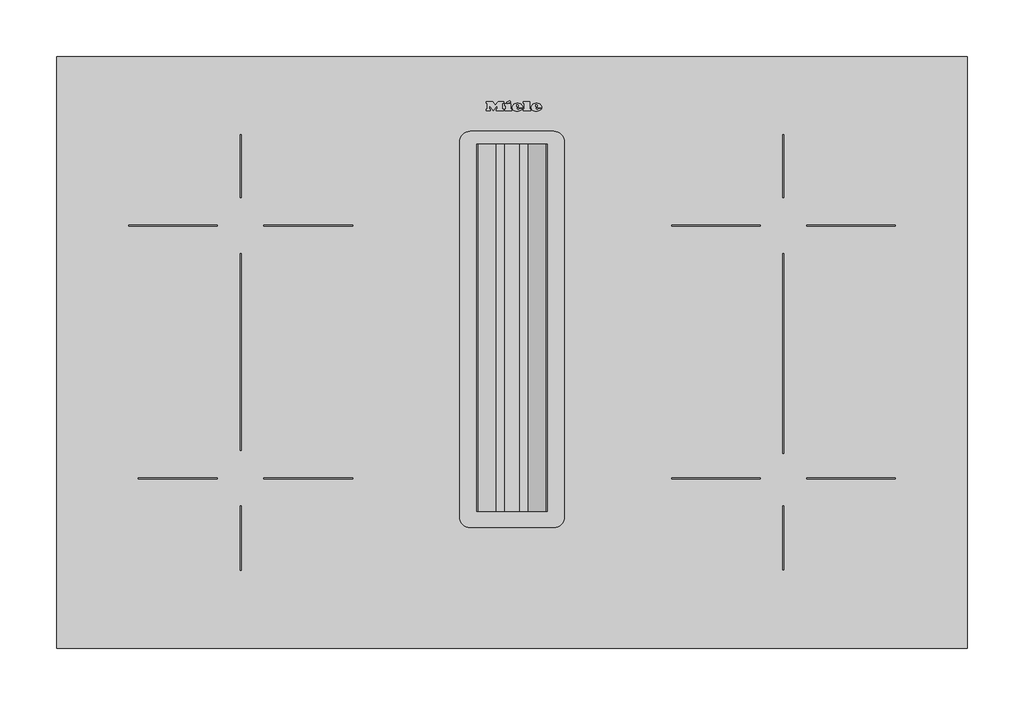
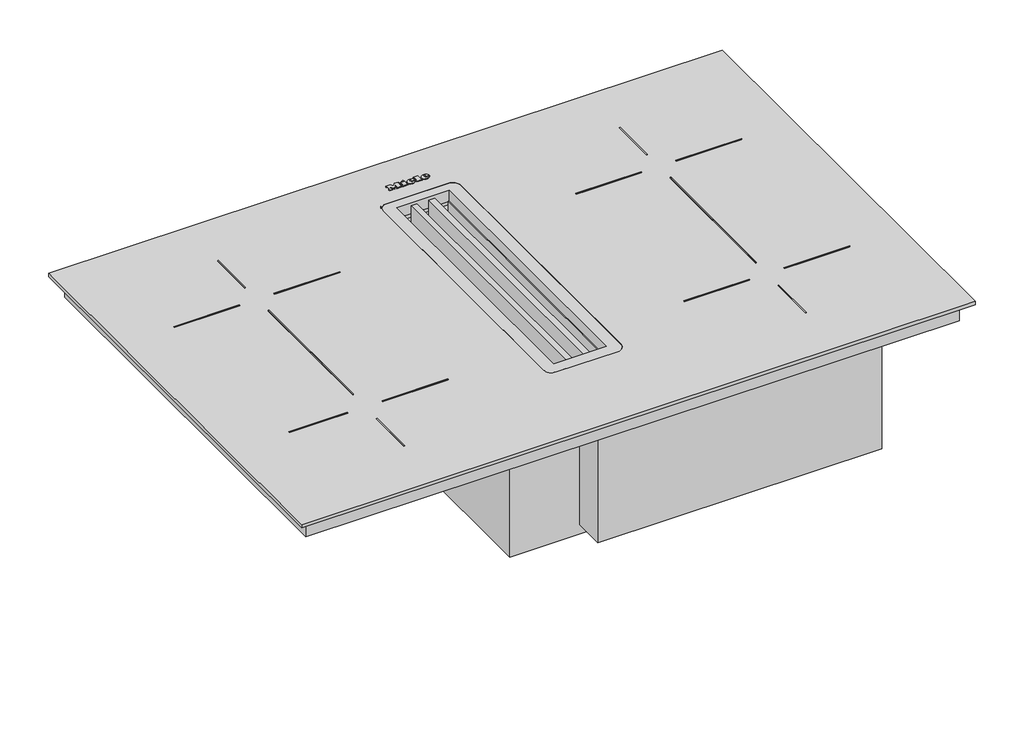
# Not in any storey: 1 proxy.
"""IFC4 building model written with IfcOpenShell, lengths in millimetres."""

import ifcopenshell
import ifcopenshell.guid

model = None  # the IFC model being written
_history = None  # IfcOwnerHistory: only IFC2X3 demands one
_inside = {}  # id of a spatial element -> (the spatial element, [elements in it])
_under = {}  # id of a project, library or spatial element -> (it, [spatial elements below it])
_declared = {}  # id of a project -> (the project, [libraries it declares])
_typed = {}  # id of a type object -> (the type object, [elements of that type])
_made_of = {}  # id of a material, layer set ... -> (it, [elements and type objects made of it])


def new_model(schema):
    """Start an empty IFC model of exactly this schema.

    Asked for "IFC4X3", IfcOpenShell would pick the latest addendum, in which some entities
    have other attributes; the version numbers below select the first issue.
    IFC2X3 requires an IfcOwnerHistory on every rooted entity: one is made here for all.
    """
    global model, _history
    if schema == "IFC4X3":
        model = ifcopenshell.file(schema_version=(4, 3, 0, 0))
    else:
        model = ifcopenshell.file(schema=schema)
    _inside.clear()
    _under.clear()
    _declared.clear()
    _typed.clear()
    _made_of.clear()
    _history = None
    if model.schema == "IFC2X3":
        org = make("IfcOrganization", Name="unknown")
        user = make(
            "IfcPersonAndOrganization",
            ThePerson=make("IfcPerson", FamilyName="unknown"),
            TheOrganization=org,
        )
        app = make(
            "IfcApplication",
            ApplicationDeveloper=org,
            Version="unknown",
            ApplicationFullName="unknown",
            ApplicationIdentifier="unknown",
        )
        _history = make(
            "IfcOwnerHistory",
            OwningUser=user,
            OwningApplication=app,
            ChangeAction="ADDED",
            CreationDate=0,
        )
    return model


def make(cls, **values):
    """One entity of the class cls with the attributes given. An attribute that is None is left unset."""
    return model.create_entity(
        cls, **{name: value for name, value in values.items() if value is not None}
    )


def rooted(cls, **values):
    """An entity with a GlobalId (a new one), such as an element, a storey or a relation."""
    return make(cls, GlobalId=ifcopenshell.guid.new(), OwnerHistory=_history, **values)


def si_unit(unit_type, name, prefix=None):
    """IfcSIUnit, for example si_unit("LENGTHUNIT", "METRE", prefix="MILLI")."""
    return make("IfcSIUnit", UnitType=unit_type, Prefix=prefix, Name=name)


def assignment(units):
    """IfcUnitAssignment: the units of a project."""
    return None if units is None else make("IfcUnitAssignment", Units=units)


def point(xyz):
    """IfcCartesianPoint."""
    return None if xyz is None else make("IfcCartesianPoint", Coordinates=xyz)


def direction(xyz):
    """IfcDirection."""
    return None if xyz is None else make("IfcDirection", DirectionRatios=xyz)


def frame(location, z_axis=None, x_axis=None):
    """IfcAxis2Placement3D, a coordinate frame: its origin and axes. An axis left out is left unset."""
    return make(
        "IfcAxis2Placement3D",
        Location=point(location),
        Axis=direction(z_axis),
        RefDirection=direction(x_axis),
    )


def frame_2d(location, x_axis=None):
    """IfcAxis2Placement2D, a coordinate frame in the plane: its origin and x axis."""
    return make(
        "IfcAxis2Placement2D", Location=point(location), RefDirection=direction(x_axis)
    )


def origin():
    """The frame at (0, 0, 0) with its axes left unset."""
    return frame((0.0, 0.0, 0.0))


def origin_with_axes():
    """The frame at (0, 0, 0) with the z axis (0, 0, 1) and the x axis (1, 0, 0) written out."""
    return frame((0.0, 0.0, 0.0), z_axis=(0.0, 0.0, 1.0), x_axis=(1.0, 0.0, 0.0))


def place(relative_to, where):
    """IfcLocalPlacement: puts the frame where relative to a parent placement (None: the world)."""
    return make(
        "IfcLocalPlacement", PlacementRelTo=relative_to, RelativePlacement=where
    )


def context(
    kind, dimensions, precision=None, world=None, true_north=None, identifier=None
):
    """IfcGeometricRepresentationContext, for example the 3D "Model" context."""
    return make(
        "IfcGeometricRepresentationContext",
        ContextIdentifier=identifier,
        ContextType=kind,
        CoordinateSpaceDimension=dimensions,
        Precision=precision,
        WorldCoordinateSystem=world,
        TrueNorth=true_north,
    )


def project(units=None, contexts=None):
    """IfcProject with its units and contexts."""
    return rooted(
        "IfcProject",
        Name="project",
        RepresentationContexts=contexts,
        UnitsInContext=assignment(units),
    )


def spatial(cls, under=None, at=None, **own):
    """A site, building, storey or space (cls), placed at a placement, below another one or the project."""
    s = rooted(cls, ObjectPlacement=at, **own)
    if under is not None:
        _under.setdefault(under.id(), (under, []))[1].append(s)
    return s


def polyline(points):
    """IfcPolyline through the points."""
    return make("IfcPolyline", Points=[point(p) for p in points])


def circle_curve(where, radius):
    """IfcCircle in the frame where."""
    return make("IfcCircle", Position=where, Radius=radius)


def ellipse_curve(where, semi_axis1, semi_axis2):
    """IfcEllipse in the frame where."""
    return make(
        "IfcEllipse", Position=where, SemiAxis1=semi_axis1, SemiAxis2=semi_axis2
    )


def trimmed(basis, trim1, trim2, sense, master):
    """IfcTrimmedCurve: the piece of a basis curve between two trims."""
    return make(
        "IfcTrimmedCurve",
        BasisCurve=basis,
        Trim1=trim1,
        Trim2=trim2,
        SenseAgreement=sense,
        MasterRepresentation=master,
    )


def segment(curve, same_sense, transition):
    """IfcCompositeCurveSegment."""
    return make(
        "IfcCompositeCurveSegment",
        Transition=transition,
        SameSense=same_sense,
        ParentCurve=curve,
    )


def composite_curve(segments, self_intersect=None):
    """IfcCompositeCurve: segments joined end to end."""
    return make("IfcCompositeCurve", Segments=segments, SelfIntersect=self_intersect)


def outline(outer, holes=None, kind="AREA"):
    """IfcArbitraryClosedProfileDef: a profile drawn as a closed curve; with holes, ...WithVoids."""
    if holes is None:
        return make("IfcArbitraryClosedProfileDef", ProfileType=kind, OuterCurve=outer)
    return make(
        "IfcArbitraryProfileDefWithVoids",
        ProfileType=kind,
        OuterCurve=outer,
        InnerCurves=holes,
    )


def extrude(swept, where, along, depth):
    """IfcExtrudedAreaSolid: the profile swept, set in the frame where, extruded along a direction by depth."""
    return make(
        "IfcExtrudedAreaSolid",
        SweptArea=swept,
        Position=where,
        ExtrudedDirection=direction(along),
        Depth=depth,
    )


def faces_of(points, faces, orient=None, outer=None):
    """IfcFace entities. A face is a list of loops; a loop is a list of indices into points, from 0.

    orient and outer hold one flag for each loop. By default every Orientation is true, the
    first loop of a face is its IfcFaceOuterBound and the others are IfcFaceBound.
    """
    made = []
    for i, loops in enumerate(faces):
        bounds = []
        for j, loop in enumerate(loops):
            is_outer = j == 0 if outer is None else outer[i][j]
            bounds.append(
                make(
                    "IfcFaceOuterBound" if is_outer else "IfcFaceBound",
                    Bound=make("IfcPolyLoop", Polygon=[points[k] for k in loop]),
                    Orientation=True if orient is None else orient[i][j],
                )
            )
        made.append(make("IfcFace", Bounds=bounds))
    return made


def faceted_brep(points, faces, orient=None, outer=None, voids=None):
    """IfcFacetedBrep: a solid bounded by flat faces; with voids (closed shells), ...WithVoids."""
    shared = [point(p) for p in points]
    hull = make("IfcClosedShell", CfsFaces=faces_of(shared, faces, orient, outer))
    if voids is None:
        return make("IfcFacetedBrep", Outer=hull)
    return make(
        "IfcFacetedBrepWithVoids",
        Outer=hull,
        Voids=[
            make(cls, CfsFaces=faces_of(shared, fs, o, b)) for cls, fs, o, b in voids
        ],
    )


def shape(context_of_items, identifier, shape_type, items):
    """IfcShapeRepresentation: the items that make up one representation, for example the "Body"."""
    return make(
        "IfcShapeRepresentation",
        ContextOfItems=context_of_items,
        RepresentationIdentifier=identifier,
        RepresentationType=shape_type,
        Items=items,
    )


def source(mapping_origin, context_of_items, identifier, shape_type, items):
    """IfcRepresentationMap: a shape defined once, which mapped items show again and again."""
    return make(
        "IfcRepresentationMap",
        MappingOrigin=mapping_origin,
        MappedRepresentation=shape(context_of_items, identifier, shape_type, items),
    )


def transform(
    local_origin,
    x_axis=None,
    y_axis=None,
    z_axis=None,
    scale=None,
    scale2=None,
    scale3=None,
    uniform=True,
):
    """IfcCartesianTransformationOperator3D, or its non-uniform kind. x_axis, y_axis, z_axis: its Axis1, 2, 3."""
    if uniform:
        return make(
            "IfcCartesianTransformationOperator3D",
            Axis1=direction(x_axis),
            Axis2=direction(y_axis),
            LocalOrigin=point(local_origin),
            Scale=scale,
            Axis3=direction(z_axis),
        )
    return make(
        "IfcCartesianTransformationOperator3DnonUniform",
        Axis1=direction(x_axis),
        Axis2=direction(y_axis),
        LocalOrigin=point(local_origin),
        Scale=scale,
        Axis3=direction(z_axis),
        Scale2=scale2,
        Scale3=scale3,
    )


def mapped(mapping_source, mapping_target):
    """IfcMappedItem: shows the shape of a source again, moved by a transform."""
    return make(
        "IfcMappedItem", MappingSource=mapping_source, MappingTarget=mapping_target
    )


def made_of(thing, what):
    """Note that an element or type object is made of a material, layer set ...; save() writes the relation."""
    if what is not None:
        _made_of.setdefault(what.id(), (what, []))[1].append(thing)
    return thing


def element(
    cls,
    number,
    at=None,
    inside=None,
    cuts=None,
    type_object=None,
    material=None,
    context=None,
    identifier="Body",
    shape_type=None,
    held_by="IfcProductDefinitionShape",
    body=None,
    shapes=None,
    **own,
):
    """One element of the class cls, such as IfcWall. Its Tag is "e" and its number.

    at: its placement. inside: the storey or other place that contains it. cuts: it is an
    opening in that element (IfcRelVoidsElement). A single representation is given by context,
    identifier, shape_type and body (its items); several are given by shapes. held_by: the class
    of the entity that holds the representations. save() writes the other relations.
    """
    e = rooted(cls, Tag="e%d" % number, ObjectPlacement=at, **own)
    if body is not None:
        shapes = [shape(context, identifier, shape_type, body)]
    if shapes is not None:
        e.Representation = make(held_by, Representations=shapes)
    if inside is not None:
        _inside.setdefault(inside.id(), (inside, []))[1].append(e)
    if cuts is not None:
        rooted(
            "IfcRelVoidsElement", RelatingBuildingElement=cuts, RelatedOpeningElement=e
        )
    if type_object is not None:
        _typed.setdefault(type_object.id(), (type_object, []))[1].append(e)
    return made_of(e, material)


def aggregate(whole, parts):
    """IfcRelAggregates: a whole, such as a stair, and the parts it consists of."""
    return rooted("IfcRelAggregates", RelatingObject=whole, RelatedObjects=parts)


def save(model, path):
    """Write the relations noted so far, then the file.

    IfcRelAggregates (storeys below a building ...), IfcRelContainedInSpatialStructure (elements
    in a storey), IfcRelDefinesByType, IfcRelAssociatesMaterial and IfcRelDeclares: one each for
    every whole, place, type object, material and project.
    """
    for whole, parts in _under.values():
        aggregate(whole, parts)
    for where, things in _inside.values():
        rooted(
            "IfcRelContainedInSpatialStructure",
            RelatedElements=things,
            RelatingStructure=where,
        )
    for kind, things in _typed.values():
        rooted("IfcRelDefinesByType", RelatedObjects=things, RelatingType=kind)
    for what, things in _made_of.values():
        rooted("IfcRelAssociatesMaterial", RelatedObjects=things, RelatingMaterial=what)
    for by, libraries in _declared.values():
        rooted("IfcRelDeclares", RelatingContext=by, RelatedDefinitions=libraries)
    model.write(path)


def plane_surface(at):
    """IfcPlane: the flat surface through the origin of the frame at, square to its z axis."""
    return make("IfcPlane", Position=at)


def cylinder_surface(at, radius):
    """IfcCylindricalSurface: all points at the distance radius from the z axis of the frame at."""
    return make("IfcCylindricalSurface", Position=at, Radius=radius)


def revolved_surface(curve, axis_point, axis_direction):
    """IfcSurfaceOfRevolution: the curve turned about the line through axis_point along axis_direction."""
    return make(
        "IfcSurfaceOfRevolution",
        SweptCurve=make("IfcArbitraryOpenProfileDef", ProfileType="CURVE", Curve=curve),
        AxisPosition=make("IfcAxis1Placement", Location=point(axis_point), Axis=direction(axis_direction)),
    )


def extruded_surface(curve, direction_of_extrusion, depth):
    """IfcSurfaceOfLinearExtrusion: the curve pushed along a direction by depth."""
    return make(
        "IfcSurfaceOfLinearExtrusion",
        SweptCurve=make("IfcArbitraryOpenProfileDef", ProfileType="CURVE", Curve=curve),
        ExtrudedDirection=direction(direction_of_extrusion),
        Depth=depth,
    )


def advanced_brep(points, edges, surfaces, faces):
    """IfcAdvancedBrep: a solid bounded by faces that lie on surfaces and meet in shared edges.

    An edge is (start, end): straight between two places in points (the first is 0);
    or (start, end, curve); or (start, end, curve, False) where it runs against its curve.
    A face is (place in surfaces, loops), or (place, loops, False) where it looks against
    its surface's normal. A loop lists edges by number (the first is 1), with a minus sign
    where the edge is run from its end to its start. The first loop is the outer one.
    """
    corners = [point(p) for p in points]
    vertices = [make("IfcVertexPoint", VertexGeometry=c) for c in corners]
    made = []
    for start, end, *more in edges:
        made.append(
            make(
                "IfcEdgeCurve",
                EdgeStart=vertices[start],
                EdgeEnd=vertices[end],
                EdgeGeometry=more[0] if more else make("IfcPolyline", Points=[corners[start], corners[end]]),
                SameSense=more[1] if len(more) > 1 else True,
            )
        )
    hull = []
    for where, loops, *sense in faces:
        bounds = []
        for j, loop in enumerate(loops):
            ring = [make("IfcOrientedEdge", EdgeElement=made[abs(k) - 1], Orientation=k > 0) for k in loop]
            bounds.append(
                make(
                    "IfcFaceOuterBound" if j == 0 else "IfcFaceBound",
                    Bound=make("IfcEdgeLoop", EdgeList=ring),
                    Orientation=True,
                )
            )
        hull.append(make("IfcAdvancedFace", Bounds=bounds, FaceSurface=surfaces[where], SameSense=sense[0] if sense else True))
    return make("IfcAdvancedBrep", Outer=make("IfcClosedShell", CfsFaces=hull))


def specialty_equipment_909bfc48(model_context):
    return source(origin(), model_context, "Body", "SolidModel", [
        advanced_brep(
        [(20.8243124, 474.5406203, 5.0), (20.8243124, 475.3486203, 5.0), (26.1763124, 475.3486203, 5.0), (16.8643124, 475.3486203, 5.0), (19.0643124, 472.6446203, 5.0), (26.0403124, 474.5406203, 5.0), (23.6243124, 474.5406203, 5.0), (21.7203124, 473.6446203, 5.0), (20.8243124, 476.3726203, 5.0), (20.8243124, 477.2446203, 5.0), (22.1923124, 477.2446203, 5.0), (22.1923124, 476.3726203, 5.0), (20.8243124, 474.5406203, 4.0), (21.7203124, 473.6446203, 4.0), (23.6243124, 474.5406203, 4.0), (26.0403124, 474.5406203, 4.0), (19.0643124, 472.6446203, 4.0), (16.8643124, 475.3486203, 4.0), (26.1763124, 475.3486203, 4.0), (20.8243124, 475.3486203, 4.0), (20.8243124, 476.3726203, 4.0), (22.1923124, 476.3726203, 4.0), (22.1923124, 477.2446203, 4.0), (20.8243124, 477.2446203, 4.0)],
        [
            (0, 1),
            (1, 2),
            (2, 3, ellipse_curve(frame((21.5203124, 475.3486203, 5.0), z_axis=(0.0, 0.0, 1.0), x_axis=(-1.0, 0.0, 0.0)), 4.656, 3.848)),
            (3, 4, circle_curve(frame((19.960356, 475.6206203, 5.0), z_axis=(0.0, 0.0, 1.0), x_axis=(0.0, -1.0, 0.0)), 3.1079688)),
            (4, 5, circle_curve(frame((21.4271059, 477.7326203, 5.0), z_axis=(0.0, 0.0, 1.0), x_axis=(0.0, -1.0, 0.0)), 5.6098607)),
            (5, 6),
            (6, 7, circle_curve(frame((22.1113712, 475.2846203, 5.0), z_axis=(0.0, 0.0, -1.0), x_axis=(0.0, -1.0, 0.0)), 1.6859795)),
            (7, 0, circle_curve(frame((21.7203124, 474.5406203, 5.0), z_axis=(0.0, 0.0, -1.0), x_axis=(0.0, -1.0, 0.0)), 0.896)),
            (8, 9),
            (9, 10, circle_curve(frame((21.5083124, 477.2446203, 5.0), z_axis=(0.0, 0.0, -1.0), x_axis=(0.0, -1.0, 0.0)), 0.684)),
            (10, 11),
            (11, 8),
            (12, 13, circle_curve(frame((21.7203124, 474.5406203, 4.0), z_axis=(0.0, 0.0, 1.0), x_axis=(0.0, -1.0, 0.0)), 0.896)),
            (13, 14, circle_curve(frame((22.1113712, 475.2846203, 4.0), z_axis=(0.0, 0.0, 1.0), x_axis=(0.0, -1.0, 0.0)), 1.6859795)),
            (14, 15),
            (15, 16, circle_curve(frame((21.4271059, 477.7326203, 4.0), z_axis=(0.0, 0.0, -1.0), x_axis=(0.0, -1.0, 0.0)), 5.6098607)),
            (16, 17, circle_curve(frame((19.960356, 475.6206203, 4.0), z_axis=(0.0, 0.0, -1.0), x_axis=(0.0, -1.0, 0.0)), 3.1079688)),
            (17, 18, ellipse_curve(frame((21.5203124, 475.3486203, 4.0), z_axis=(0.0, 0.0, -1.0), x_axis=(-1.0, 0.0, 0.0)), 4.656, 3.848)),
            (18, 19),
            (19, 12),
            (20, 21),
            (21, 22),
            (22, 23, circle_curve(frame((21.5083124, 477.2446203, 4.0), z_axis=(0.0, 0.0, 1.0), x_axis=(0.0, -1.0, 0.0)), 0.684)),
            (23, 20),
            (0, 12),
            (19, 1),
            (18, 2),
            (5, 15),
            (14, 6),
            (17, 3),
            (13, 7),
            (16, 4),
            (8, 20),
            (23, 9),
            (22, 10),
            (21, 11),
        ],
        [
            plane_surface(frame((20.8243124, 475.3486203, 5.0), z_axis=(0.0, 0.0, 1.0), x_axis=(0.0, 1.0, 0.0))),
            plane_surface(frame((20.8243124, 475.3486203, 4.0), z_axis=(0.0, 0.0, -1.0), x_axis=(0.0, -1.0, 0.0))),
            plane_surface(frame((20.8243124, 474.5406203, 5.0), z_axis=(1.0, 0.0, 0.0), x_axis=(0.0, 0.0, -1.0))),
            plane_surface(frame((20.8243124, 475.3486203, 5.0), z_axis=(0.0, -1.0, 0.0), x_axis=(0.0, 0.0, -1.0))),
            plane_surface(frame((26.0403124, 474.5406203, 5.0), z_axis=(0.0, 1.0, 0.0), x_axis=(0.0, 0.0, -1.0))),
            extruded_surface(trimmed(ellipse_curve(frame((21.5203124, 475.3486203, 3.0), z_axis=(0.0, 0.0, 1.0), x_axis=(-1.0, 0.0, 0.0)), 4.656, 3.848), [point((26.1763124, 475.3486203, 3.0))], [point((16.8643124, 475.3486203, 3.0))], True, "CARTESIAN"), (0.0, 0.0, 1.0), 1.0),
            revolved_surface(polyline([(22.1113712, 473.5986408, 4.0), (22.1113712, 473.5986408, 5.0)]), (22.1113712, 475.2846203, 4.0), (0.0, 0.0, -1.0)),
            revolved_surface(polyline([(21.7203124, 473.6446203, 4.0), (21.7203124, 473.6446203, 5.0)]), (21.7203124, 474.5406203, 4.0), (0.0, 0.0, -1.0)),
            cylinder_surface(frame((19.960356, 475.6206203, 4.0), z_axis=(0.0, 0.0, 1.0), x_axis=(0.0, -1.0, 0.0)), 3.1079688),
            cylinder_surface(frame((21.4271059, 477.7326203, 4.0), z_axis=(0.0, 0.0, 1.0), x_axis=(0.0, -1.0, 0.0)), 5.6098607),
            plane_surface(frame((20.8243124, 476.3726203, 5.0), z_axis=(1.0, 0.0, 0.0), x_axis=(0.0, 0.0, -1.0))),
            revolved_surface(polyline([(21.5083124, 476.5606203, 4.0), (21.5083124, 476.5606203, 5.0)]), (21.5083124, 477.2446203, 4.0), (0.0, 0.0, -1.0)),
            plane_surface(frame((22.1923124, 477.2446203, 5.0), z_axis=(-1.0, 0.0, 0.0), x_axis=(0.0, 0.0, -1.0))),
            plane_surface(frame((22.1923124, 476.3726203, 5.0), z_axis=(0.0, 1.0, 0.0), x_axis=(0.0, 0.0, -1.0))),
        ],
        [
            (0, [[1, 2, 3, 4, 5, 6, 7, 8], [9, 10, 11, 12]]),
            (1, [[13, 14, 15, 16, 17, 18, 19, 20], [21, 22, 23, 24]]),
            (2, [[-1, 25, -20, 26]]),
            (3, [[-2, -26, -19, 27]]),
            (4, [[-6, 28, -15, 29]]),
            (5, [[-3, -27, -18, 30]]),
            (6, [[-7, -29, -14, 31]]),
            (7, [[-8, -31, -13, -25]]),
            (8, [[-4, -30, -17, 32]]),
            (9, [[-5, -32, -16, -28]]),
            (10, [[-9, 33, -24, 34]]),
            (11, [[-10, -34, -23, 35]]),
            (12, [[-11, -35, -22, 36]]),
            (13, [[-12, -36, -21, -33]]),
        ],
    ),
        advanced_brep(
        [(4.1283124, 474.5406203, 5.0), (4.1283124, 475.3486203, 5.0), (9.4803124, 475.3486203, 5.0), (0.1683124, 475.3486203, 5.0), (2.3683124, 472.6446203, 5.0), (9.3443124, 474.5406203, 5.0), (6.9283124, 474.5406203, 5.0), (5.0243124, 473.6446203, 5.0), (4.1283124, 476.3726203, 5.0), (4.1283124, 477.2446203, 5.0), (5.4963124, 477.2446203, 5.0), (5.4963124, 476.3726203, 5.0), (4.1283124, 474.5406203, 4.0), (5.0243124, 473.6446203, 4.0), (6.9283124, 474.5406203, 4.0), (9.3443124, 474.5406203, 4.0), (2.3683124, 472.6446203, 4.0), (0.1683124, 475.3486203, 4.0), (9.4803124, 475.3486203, 4.0), (4.1283124, 475.3486203, 4.0), (4.1283124, 476.3726203, 4.0), (5.4963124, 476.3726203, 4.0), (5.4963124, 477.2446203, 4.0), (4.1283124, 477.2446203, 4.0)],
        [
            (0, 1),
            (1, 2),
            (2, 3, ellipse_curve(frame((4.8243124, 475.3486203, 5.0), z_axis=(0.0, 0.0, 1.0), x_axis=(-1.0, 0.0, 0.0)), 4.656, 3.848)),
            (3, 4, circle_curve(frame((3.264356, 475.6206203, 5.0), z_axis=(0.0, 0.0, 1.0), x_axis=(0.0, -1.0, 0.0)), 3.1079688)),
            (4, 5, circle_curve(frame((4.7311059, 477.7326203, 5.0), z_axis=(0.0, 0.0, 1.0), x_axis=(0.0, -1.0, 0.0)), 5.6098607)),
            (5, 6),
            (6, 7, circle_curve(frame((5.4153712, 475.2846203, 5.0), z_axis=(0.0, 0.0, -1.0), x_axis=(0.0, -1.0, 0.0)), 1.6859795)),
            (7, 0, circle_curve(frame((5.0243124, 474.5406203, 5.0), z_axis=(0.0, 0.0, -1.0), x_axis=(0.0, -1.0, 0.0)), 0.896)),
            (8, 9),
            (9, 10, circle_curve(frame((4.8123124, 477.2446203, 5.0), z_axis=(0.0, 0.0, -1.0), x_axis=(0.0, -1.0, 0.0)), 0.684)),
            (10, 11),
            (11, 8),
            (12, 13, circle_curve(frame((5.0243124, 474.5406203, 4.0), z_axis=(0.0, 0.0, 1.0), x_axis=(0.0, -1.0, 0.0)), 0.896)),
            (13, 14, circle_curve(frame((5.4153712, 475.2846203, 4.0), z_axis=(0.0, 0.0, 1.0), x_axis=(0.0, -1.0, 0.0)), 1.6859795)),
            (14, 15),
            (15, 16, circle_curve(frame((4.7311059, 477.7326203, 4.0), z_axis=(0.0, 0.0, -1.0), x_axis=(0.0, -1.0, 0.0)), 5.6098607)),
            (16, 17, circle_curve(frame((3.264356, 475.6206203, 4.0), z_axis=(0.0, 0.0, -1.0), x_axis=(0.0, -1.0, 0.0)), 3.1079688)),
            (17, 18, ellipse_curve(frame((4.8243124, 475.3486203, 4.0), z_axis=(0.0, 0.0, -1.0), x_axis=(-1.0, 0.0, 0.0)), 4.656, 3.848)),
            (18, 19),
            (19, 12),
            (20, 21),
            (21, 22),
            (22, 23, circle_curve(frame((4.8123124, 477.2446203, 4.0), z_axis=(0.0, 0.0, 1.0), x_axis=(0.0, -1.0, 0.0)), 0.684)),
            (23, 20),
            (0, 12),
            (19, 1),
            (18, 2),
            (5, 15),
            (14, 6),
            (17, 3),
            (13, 7),
            (16, 4),
            (8, 20),
            (23, 9),
            (22, 10),
            (21, 11),
        ],
        [
            plane_surface(frame((4.1283124, 475.3486203, 5.0), z_axis=(0.0, 0.0, 1.0), x_axis=(0.0, 1.0, 0.0))),
            plane_surface(frame((4.1283124, 475.3486203, 4.0), z_axis=(0.0, 0.0, -1.0), x_axis=(0.0, -1.0, 0.0))),
            plane_surface(frame((4.1283124, 474.5406203, 5.0), z_axis=(1.0, 0.0, 0.0), x_axis=(0.0, 0.0, -1.0))),
            plane_surface(frame((4.1283124, 475.3486203, 5.0), z_axis=(0.0, -1.0, 0.0), x_axis=(0.0, 0.0, -1.0))),
            plane_surface(frame((9.3443124, 474.5406203, 5.0), z_axis=(0.0, 1.0, 0.0), x_axis=(0.0, 0.0, -1.0))),
            extruded_surface(trimmed(ellipse_curve(frame((4.8243124, 475.3486203, 3.0), z_axis=(0.0, 0.0, 1.0), x_axis=(-1.0, 0.0, 0.0)), 4.656, 3.848), [point((9.4803124, 475.3486203, 3.0))], [point((0.1683124, 475.3486203, 3.0))], True, "CARTESIAN"), (0.0, 0.0, 1.0), 1.0),
            revolved_surface(polyline([(5.4153712, 473.5986408, 4.0), (5.4153712, 473.5986408, 5.0)]), (5.4153712, 475.2846203, 4.0), (0.0, 0.0, -1.0)),
            revolved_surface(polyline([(5.0243124, 473.6446203, 4.0), (5.0243124, 473.6446203, 5.0)]), (5.0243124, 474.5406203, 4.0), (0.0, 0.0, -1.0)),
            cylinder_surface(frame((3.264356, 475.6206203, 4.0), z_axis=(0.0, 0.0, 1.0), x_axis=(0.0, -1.0, 0.0)), 3.1079688),
            cylinder_surface(frame((4.7311059, 477.7326203, 4.0), z_axis=(0.0, 0.0, 1.0), x_axis=(0.0, -1.0, 0.0)), 5.6098607),
            plane_surface(frame((4.1283124, 476.3726203, 5.0), z_axis=(1.0, 0.0, 0.0), x_axis=(0.0, 0.0, -1.0))),
            revolved_surface(polyline([(4.8123124, 476.5606203, 4.0), (4.8123124, 476.5606203, 5.0)]), (4.8123124, 477.2446203, 4.0), (0.0, 0.0, -1.0)),
            plane_surface(frame((5.4963124, 477.2446203, 5.0), z_axis=(-1.0, 0.0, 0.0), x_axis=(0.0, 0.0, -1.0))),
            plane_surface(frame((5.4963124, 476.3726203, 5.0), z_axis=(0.0, 1.0, 0.0), x_axis=(0.0, 0.0, -1.0))),
        ],
        [
            (0, [[1, 2, 3, 4, 5, 6, 7, 8], [9, 10, 11, 12]]),
            (1, [[13, 14, 15, 16, 17, 18, 19, 20], [21, 22, 23, 24]]),
            (2, [[-1, 25, -20, 26]]),
            (3, [[-2, -26, -19, 27]]),
            (4, [[-6, 28, -15, 29]]),
            (5, [[-3, -27, -18, 30]]),
            (6, [[-7, -29, -14, 31]]),
            (7, [[-8, -31, -13, -25]]),
            (8, [[-4, -30, -17, 32]]),
            (9, [[-5, -32, -16, -28]]),
            (10, [[-9, 33, -24, 34]]),
            (11, [[-10, -34, -23, 35]]),
            (12, [[-11, -35, -22, 36]]),
            (13, [[-12, -36, -21, -33]]),
        ],
    ),
        extrude(outline(polyline([(-4.6156876, 480.1726203), (-1.8956876, 481.4366203), (-1.2956876, 480.1406203), (-4.0076876, 478.8766203), (-4.6156876, 480.1726203)])), frame((0.0, 0.0, 4.0), z_axis=(0.0, 0.0, 1.0), x_axis=(1.0, 0.0, 0.0)), (0.0, 0.0, 1.0), 1.0),
        extrude(outline(polyline([(-6.5916876, 478.7006203), (-1.2076876, 478.7006203), (-1.2076876, 473.9886203), (-0.2796876, 473.9886203), (-0.2796876, 472.6446203), (-6.5916876, 472.6446203), (-6.5916876, 473.9886203), (-5.6396876, 473.9886203), (-5.6396876, 477.2686203), (-6.5916876, 477.2686203), (-6.5916876, 478.7006203)])), frame((0.0, 0.0, 4.0), z_axis=(0.0, 0.0, 1.0), x_axis=(1.0, 0.0, 0.0)), (0.0, 0.0, 1.0), 1.0),
        extrude(outline(polyline([(9.9283124, 479.3406203), (9.9283124, 480.6446203), (15.4323124, 480.6446203), (15.4323124, 473.9886203), (16.4163124, 473.9886203), (16.4163124, 472.6446203), (9.9283124, 472.6446203), (9.9283124, 473.9886203), (10.8883124, 473.9886203), (10.8883124, 479.3406203), (9.9283124, 479.3406203)])), frame((0.0, 0.0, 4.0), z_axis=(0.0, 0.0, 1.0), x_axis=(1.0, 0.0, 0.0)), (0.0, 0.0, 1.0), 1.0),
        extrude(outline(polyline([(-22.5356876, 479.3406203), (-22.5356876, 480.6446203), (-16.9596876, 480.6446203), (-14.6156876, 477.6446203), (-12.2796876, 480.6446203), (-7.4076876, 480.6446203), (-7.4076876, 479.3406203), (-8.4236876, 479.3406203), (-8.4236876, 473.9886203), (-7.4076876, 473.9886203), (-7.4076876, 472.6446203), (-13.7916876, 472.6446203), (-13.7916876, 473.9886203), (-12.8076876, 473.9886203), (-12.8076876, 477.4598426), (-16.3996876, 472.6446203), (-19.9756876, 477.3917451), (-19.9756876, 473.9886203), (-19.0156876, 473.9886203), (-19.0156876, 472.6446203), (-22.5356876, 472.6446203), (-22.5356876, 473.9886203), (-21.5676876, 473.9886203), (-21.5676876, 479.3406203), (-22.5356876, 479.3406203)])), frame((0.0, 0.0, 4.0), z_axis=(0.0, 0.0, 1.0), x_axis=(1.0, 0.0, 0.0)), (0.0, 0.0, 1.0), 1.0),
        faceted_brep([(-71.7186221, 460.5236466, -23.0), (-364.8972461, 460.5236466, -23.0), (-364.8972461, 59.427471, -23.0), (-71.7186221, 59.427471, -23.0), (-71.7186221, 59.427471, -49.8134964), (-364.8972461, 59.427471, -49.8134964), (-364.8972461, 460.5236466, -49.8134964), (-86.144412, 460.5236466, -49.8134964), (-86.144412, 352.5236466, -49.8134964), (-71.7186221, 352.5236466, -49.8134964), (-71.7186221, 460.5236466, -31.728133), (-86.144412, 460.5236466, -31.728133), (-71.7186221, 352.5236466, -31.728133), (-86.144412, 352.5236466, -31.728133)], [[[0, 1, 2, 3]], [[4, 5, 6, 7, 8, 9]], [[1, 0, 10, 11, 7, 6]], [[2, 1, 6, 5]], [[3, 2, 5, 4]], [[0, 3, 4, 9, 12, 10]], [[8, 13, 12, 9]], [[12, 13, 11, 10]], [[13, 8, 7, 11]]]),
        extrude(outline(polyline([(388.0, 508.0), (388.0, 12.0), (-388.0, 12.0), (-388.0, 508.0), (388.0, 508.0)]), holes=[composite_curve([segment(trimmed(circle_curve(frame_2d((36.5, 115.5)), 9.5), [point((36.5, 106.0))], [point((46.0, 115.5))], True, "CARTESIAN"), True, "CONTINUOUS"), segment(polyline([(46.0, 115.5), (46.0, 445.0)]), True, "CONTINUOUS"), segment(trimmed(circle_curve(frame_2d((36.5, 445.0)), 9.5), [point((46.0, 445.0))], [point((36.5, 454.5))], True, "CARTESIAN"), True, "CONTINUOUS"), segment(polyline([(36.5, 454.5), (-36.5395335, 454.5)]), True, "CONTINUOUS"), segment(trimmed(circle_curve(frame_2d((-36.5395335, 445.0395335)), 9.4604665), [point((-36.5395335, 454.5))], [point((-46.0, 445.0395335))], True, "CARTESIAN"), True, "CONTINUOUS"), segment(polyline([(-46.0, 445.0395335), (-46.0, 115.5)]), True, "CONTINUOUS"), segment(trimmed(circle_curve(frame_2d((-36.5, 115.5)), 9.5), [point((-46.0, 115.5))], [point((-36.5, 106.0))], True, "CARTESIAN"), True, "CONTINUOUS"), segment(polyline([(-36.5, 106.0), (36.5, 106.0)]), True, "CONTINUOUS")], self_intersect=False)]), frame((0.0, 0.0, -23.0), z_axis=(0.0, 0.0, 1.0), x_axis=(1.0, 0.0, 0.0)), (0.0, 0.0, 1.0), 23.0),
        extrude(outline(polyline([(400.0, 520.0), (400.0, 0.0), (-400.0, 0.0), (-400.0, 520.0), (400.0, 520.0)]), holes=[composite_curve([segment(polyline([(36.5, 454.5), (-36.5, 454.5)]), True, "CONTINUOUS"), segment(trimmed(circle_curve(frame_2d((-36.5, 445.0)), 9.5), [point((-36.5, 454.5))], [point((-46.0, 445.0))], True, "CARTESIAN"), True, "CONTINUOUS"), segment(polyline([(-46.0, 445.0), (-46.0, 115.5)]), True, "CONTINUOUS"), segment(trimmed(circle_curve(frame_2d((-36.5, 115.5)), 9.5), [point((-46.0, 115.5))], [point((-36.5, 106.0))], True, "CARTESIAN"), True, "CONTINUOUS"), segment(polyline([(-36.5, 106.0), (36.5, 106.0)]), True, "CONTINUOUS"), segment(trimmed(circle_curve(frame_2d((36.5, 115.5)), 9.5), [point((36.5, 106.0))], [point((46.0, 115.5))], True, "CARTESIAN"), True, "CONTINUOUS"), segment(polyline([(46.0, 115.5), (46.0, 445.0)]), True, "CONTINUOUS"), segment(trimmed(circle_curve(frame_2d((36.5, 445.0)), 9.5), [point((46.0, 445.0))], [point((36.5, 454.5))], True, "CARTESIAN"), True, "CONTINUOUS")], self_intersect=False)]), origin_with_axes(), (0.0, 0.0, 1.0), 4.0),
        extrude(outline(polyline([(-45.5823584, -70.2509053), (-35.5367274, -70.2509053), (-35.5367274, -77.4712026), (-36.7924312, -77.4712026), (-36.7924312, -71.5066091), (-39.7747279, -71.5066091), (-39.7747279, -77.1572766), (-41.0304318, -77.1572766), (-41.0304318, -71.5066091), (-44.3266545, -71.5066091), (-44.3266545, -77.6281655), (-45.5823584, -77.6281655), (-45.5823584, -70.2509053)])), frame((0.0, 405.5236466, 0.0), z_axis=(0.0, 1.0, 0.0), x_axis=(0.0, 0.0, 1.0)), (0.0, 0.0, 1.0), 1.0),
        extrude(outline(polyline([(-45.5823584, -79.5117214), (-35.5367274, -79.5117214), (-35.5367274, -80.7674252), (-44.3266545, -80.7674252), (-44.3266545, -85.7902407), (-45.5823584, -85.7902407), (-45.5823584, -79.5117214)])), frame((0.0, 405.5236466, 0.0), z_axis=(0.0, 1.0, 0.0), x_axis=(0.0, 0.0, 1.0)), (0.0, 0.0, 1.0), 1.0),
        extrude(outline(polyline([(-238.0, 347.0), (-238.0, 174.0), (-239.0, 174.0), (-239.0, 347.0), (-238.0, 347.0)])), frame((0.0, 0.0, 5.0), z_axis=(0.0, 0.0, 1.0), x_axis=(1.0, 0.0, 0.0)), (0.0, 0.0, 1.0), 1.0),
        extrude(outline(polyline([(238.0, 347.0), (239.0, 347.0), (239.0, 171.2818617), (238.0, 171.2818617), (238.0, 347.0)])), frame((0.0, 0.0, 5.0), z_axis=(0.0, 0.0, 1.0), x_axis=(1.0, 0.0, 0.0)), (0.0, 0.0, 1.0), 1.0),
        advanced_brep(
        [(-86.144412, 370.5236466, -40.8134964), (-86.144412, 380.5236466, -40.8134964), (-71.144412, 370.5236466, -40.8134964), (-81.144412, 380.5236466, -40.8134964), (-71.144412, 405.5236466, -40.8134964), (-81.144412, 405.5236466, -40.8134964)],
        [
            (0, 1, circle_curve(frame((-86.144412, 375.5236466, -40.8134964), z_axis=(-1.0, 0.0, 0.0), x_axis=(0.0, 1.0, 0.0)), 5.0)),
            (1, 0, circle_curve(frame((-86.144412, 375.5236466, -40.8134964), z_axis=(-1.0, 0.0, 0.0), x_axis=(0.0, 1.0, 0.0)), 5.0)),
            (0, 2),
            (2, 3, ellipse_curve(frame((-76.144412, 375.5236466, -40.8134964), z_axis=(-0.7071067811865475, -0.7071067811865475, 0.0), x_axis=(-0.7071067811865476, 0.7071067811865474, 0.0)), 7.0710678, 5.0)),
            (3, 1),
            (3, 2, ellipse_curve(frame((-76.144412, 375.5236466, -40.8134964), z_axis=(-0.7071067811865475, -0.7071067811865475, 0.0), x_axis=(-0.7071067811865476, 0.7071067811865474, 0.0)), 7.0710678, 5.0)),
            (4, 5, circle_curve(frame((-76.144412, 405.5236466, -40.8134964), z_axis=(0.0, 1.0, 0.0), x_axis=(-1.0, 0.0, 0.0)), 5.0)),
            (5, 4, circle_curve(frame((-76.144412, 405.5236466, -40.8134964), z_axis=(0.0, 1.0, 0.0), x_axis=(-1.0, 0.0, 0.0)), 5.0)),
            (2, 4),
            (5, 3),
        ],
        [
            plane_surface(frame((-86.144412, 375.5236466, 0.0), z_axis=(-1.0, 0.0, 0.0), x_axis=(0.0, 0.0, 1.0))),
            cylinder_surface(frame((-86.144412, 375.5236466, -40.8134964), z_axis=(-1.0, 0.0, 0.0), x_axis=(0.0, 1.0, 0.0)), 5.0),
            plane_surface(frame((-76.144412, 405.5236466, 0.0), z_axis=(0.0, 1.0, 0.0), x_axis=(0.0, 0.0, 1.0))),
            cylinder_surface(frame((-76.144412, 375.5236466, -40.8134964), z_axis=(0.0, -1.0, 0.0), x_axis=(-1.0, 0.0, 0.0)), 5.0),
        ],
        [
            (0, [[1, 2]]),
            (1, [[-1, 3, 4, 5]]),
            (1, [[-2, -5, 6, -3]]),
            (2, [[7, 8]]),
            (3, [[-4, 9, -8, 10]]),
            (3, [[-6, -10, -7, -9]]),
        ],
    ),
        extrude(outline(polyline([(-259.0, 372.0), (-259.0, 371.0), (-337.0, 371.0), (-337.0, 372.0), (-259.0, 372.0)])), frame((0.0, 0.0, 4.0), z_axis=(0.0, 0.0, 1.0), x_axis=(1.0, 0.0, 0.0)), (0.0, 0.0, 1.0), 1.0),
        extrude(outline(polyline([(-140.0, 372.0), (-140.0, 371.0), (-218.0, 371.0), (-218.0, 372.0), (-140.0, 372.0)])), frame((0.0, 0.0, 4.0), z_axis=(0.0, 0.0, 1.0), x_axis=(1.0, 0.0, 0.0)), (0.0, 0.0, 1.0), 1.0),
        extrude(outline(polyline([(-259.0, 148.7), (-328.4422621, 148.7), (-328.4422621, 149.7), (-259.0, 149.7), (-259.0, 148.7)])), frame((0.0, 0.0, 4.0), z_axis=(0.0, 0.0, 1.0), x_axis=(1.0, 0.0, 0.0)), (0.0, 0.0, 1.0), 1.0),
        extrude(outline(polyline([(-140.0, 149.7), (-140.0, 148.7), (-218.0, 148.7), (-218.0, 149.7), (-140.0, 149.7)])), frame((0.0, 0.0, 4.0), z_axis=(0.0, 0.0, 1.0), x_axis=(1.0, 0.0, 0.0)), (0.0, 0.0, 1.0), 1.0),
        extrude(outline(polyline([(259.0, 372.0), (337.0, 372.0), (337.0, 371.0), (259.0, 371.0), (259.0, 372.0)])), frame((0.0, 0.0, 4.0), z_axis=(0.0, 0.0, 1.0), x_axis=(1.0, 0.0, 0.0)), (0.0, 0.0, 1.0), 1.0),
        extrude(outline(polyline([(140.5, 372.0), (218.0, 372.0), (218.0, 371.0), (140.5, 371.0), (140.5, 372.0)])), frame((0.0, 0.0, 4.0), z_axis=(0.0, 0.0, 1.0), x_axis=(1.0, 0.0, 0.0)), (0.0, 0.0, 1.0), 1.0),
        extrude(outline(polyline([(-239.0, 68.5), (-239.0, 125.0), (-238.0, 125.0), (-238.0, 68.5), (-239.0, 68.5)])), frame((0.0, 0.0, 4.0), z_axis=(0.0, 0.0, 1.0), x_axis=(1.0, 0.0, 0.0)), (0.0, 0.0, 1.0), 1.0),
        extrude(outline(polyline([(239.0, 69.0), (238.0, 69.0), (238.0, 125.0), (239.0, 125.0), (239.0, 69.0)])), frame((0.0, 0.0, 4.0), z_axis=(0.0, 0.0, 1.0), x_axis=(1.0, 0.0, 0.0)), (0.0, 0.0, 1.0), 1.0),
        extrude(outline(polyline([(239.0, 451.5), (239.0, 396.0), (238.0, 396.0), (238.0, 451.5), (239.0, 451.5)])), frame((0.0, 0.0, 4.0), z_axis=(0.0, 0.0, 1.0), x_axis=(1.0, 0.0, 0.0)), (0.0, 0.0, 1.0), 1.0),
        extrude(outline(polyline([(-239.0, 451.5), (-238.0, 451.5), (-238.0, 396.0), (-239.0, 396.0), (-239.0, 451.5)])), frame((0.0, 0.0, 4.0), z_axis=(0.0, 0.0, 1.0), x_axis=(1.0, 0.0, 0.0)), (0.0, 0.0, 1.0), 1.0),
        extrude(outline(polyline([(259.0, 148.7), (259.0, 149.7), (337.0, 149.7), (337.0, 148.7), (259.0, 148.7)])), frame((0.0, 0.0, 4.0), z_axis=(0.0, 0.0, 1.0), x_axis=(1.0, 0.0, 0.0)), (0.0, 0.0, 1.0), 1.0),
        extrude(outline(polyline([(140.5, 148.7), (140.5, 149.7), (218.0, 149.7), (218.0, 148.7), (140.5, 148.7)])), frame((0.0, 0.0, 4.0), z_axis=(0.0, 0.0, 1.0), x_axis=(1.0, 0.0, 0.0)), (0.0, 0.0, 1.0), 1.0),
        extrude(outline(polyline([(14.0, 120.177901), (7.0, 120.177901), (7.0, 443.3010247), (14.0, 443.3010247), (14.0, 120.177901)])), frame((0.0, 0.0, -30.0), z_axis=(0.0, 0.0, 1.0), x_axis=(1.0, 0.0, 0.0)), (0.0, 0.0, 1.0), 30.0),
        extrude(outline(polyline([(-7.0, 120.177901), (-14.0, 120.177901), (-14.0, 443.3010247), (-7.0, 443.3010247), (-7.0, 120.177901)])), frame((0.0, 0.0, -30.0), z_axis=(0.0, 0.0, 1.0), x_axis=(1.0, 0.0, 0.0)), (0.0, 0.0, 1.0), 30.0),
        extrude(outline(polyline([(-150.3933796, 8.7812172), (-23.0, 31.0806576), (-9.6002538, 31.0806576), (-9.6002538, 30.0806576), (-22.9176, 30.0806576), (-149.3933796, 7.9334714), (-149.3933796, -10.4294884), (-23.1226136, -30.0513858), (-9.6002538, -30.0513858), (-9.6002538, -31.0802193), (-23.0, -31.0802193), (-150.3933796, -11.2930358), (-150.3933796, 8.7812172)])), frame((0.0, 120.177901, 0.0), z_axis=(0.0, 1.0, 0.0), x_axis=(0.0, 0.0, 1.0)), (0.0, 0.0, 1.0), 323.1231238),
        advanced_brep(
        [(65.0, 90.0, -196.0003671), (65.0, 90.0, -23.0), (-55.0, 90.0, -23.0), (-58.0, 90.0, -26.0), (-58.0, 90.0, -78.0), (-97.8585744, 90.0, -78.0), (-100.8585744, 90.0, -81.0), (-100.8585744, 90.0, -196.0003671), (65.0, 473.0, -196.0003671), (-100.8585744, 473.0, -196.0003671), (-100.8585744, 473.0, -81.0), (-97.8585744, 473.0, -78.0), (-58.0, 473.0, -78.0), (-58.0, 473.0, -26.0), (-55.0, 473.0, -23.0), (65.0, 473.0, -23.0), (-31.0802193, 443.3010247, -23.0), (31.0806576, 443.3010247, -23.0), (31.0806576, 120.177901, -23.0), (-31.0802193, 120.177901, -23.0), (31.0806576, 443.3010247, -150.3933796), (-31.0802193, 443.3010247, -150.3933796), (-31.0802193, 120.177901, -150.3933796), (31.0806576, 120.177901, -150.3933796)],
        [
            (0, 1),
            (1, 2),
            (2, 3, circle_curve(frame((-55.0, 90.0, -26.0), z_axis=(0.0, -1.0, 0.0), x_axis=(1.0, 0.0, 0.0)), 3.0)),
            (3, 4),
            (4, 5),
            (5, 6, circle_curve(frame((-97.8585744, 90.0, -81.0), z_axis=(0.0, -1.0, 0.0), x_axis=(1.0, 0.0, 0.0)), 3.0)),
            (6, 7),
            (7, 0),
            (8, 9),
            (9, 10),
            (10, 11, circle_curve(frame((-97.8585744, 473.0, -81.0), z_axis=(0.0, 1.0, 0.0), x_axis=(1.0, 0.0, 0.0)), 3.0)),
            (11, 12),
            (12, 13),
            (13, 14, circle_curve(frame((-55.0, 473.0, -26.0), z_axis=(0.0, 1.0, 0.0), x_axis=(1.0, 0.0, 0.0)), 3.0)),
            (14, 15),
            (15, 8),
            (0, 8),
            (15, 1),
            (14, 2),
            (16, 17),
            (17, 18),
            (18, 19),
            (19, 16),
            (3, 13),
            (12, 4),
            (11, 5),
            (6, 10),
            (9, 7),
            (20, 21),
            (21, 22),
            (22, 23),
            (23, 20),
            (20, 17),
            (16, 21),
            (19, 22),
            (18, 23),
        ],
        [
            plane_surface(frame((65.0, 90.0, -196.0003671), z_axis=(0.0, -1.0, 0.0), x_axis=(0.0, 0.0, 1.0))),
            plane_surface(frame((65.0, 473.0, -196.0003671), z_axis=(0.0, 1.0, 0.0), x_axis=(0.0, 0.0, -1.0))),
            plane_surface(frame((65.0, 90.0, -196.0003671), z_axis=(1.0, 0.0, 0.0), x_axis=(0.0, 1.0, 0.0))),
            plane_surface(frame((65.0, 90.0, -23.0), z_axis=(0.0, 0.0, 1.0), x_axis=(0.0, 1.0, 0.0))),
            plane_surface(frame((-58.0, 90.0, -26.0), z_axis=(-1.0, 0.0, 0.0), x_axis=(0.0, 1.0, 0.0))),
            plane_surface(frame((-58.0, 90.0, -78.0), z_axis=(0.0, 0.0, 1.0), x_axis=(0.0, 1.0, 0.0))),
            plane_surface(frame((-100.8585744, 90.0, -81.0), z_axis=(-1.0, 0.0, 0.0), x_axis=(0.0, 1.0, 0.0))),
            plane_surface(frame((-100.8585744, 90.0, -196.0003671), z_axis=(0.0, 0.0, -1.0), x_axis=(0.0, 1.0, 0.0))),
            cylinder_surface(frame((-55.0, 473.0, -26.0), z_axis=(0.0, -1.0, 0.0), x_axis=(1.0, 0.0, 0.0)), 3.0),
            cylinder_surface(frame((-97.8585744, 473.0, -81.0), z_axis=(0.0, -1.0, 0.0), x_axis=(1.0, 0.0, 0.0)), 3.0),
            plane_surface(frame((-31.0802193, 443.3010247, -150.3933796), z_axis=(0.0, 0.0, 1.0), x_axis=(1.0, 0.0, 0.0))),
            plane_surface(frame((31.0806576, 443.3010247, 0.0), z_axis=(0.0, -1.0, 0.0), x_axis=(0.0, 0.0, -1.0))),
            plane_surface(frame((-31.0802193, 443.3010247, 0.0), z_axis=(1.0, 0.0, 0.0), x_axis=(0.0, 0.0, -1.0))),
            plane_surface(frame((-31.0802193, 120.177901, 0.0), z_axis=(0.0, 1.0, 0.0), x_axis=(0.0, 0.0, -1.0))),
            plane_surface(frame((31.0806576, 120.177901, 0.0), z_axis=(-1.0, 0.0, 0.0), x_axis=(0.0, 0.0, -1.0))),
        ],
        [
            (0, [[1, 2, 3, 4, 5, 6, 7, 8]]),
            (1, [[9, 10, 11, 12, 13, 14, 15, 16]]),
            (2, [[-1, 17, -16, 18]]),
            (3, [[-2, -18, -15, 19], [20, 21, 22, 23]]),
            (4, [[-4, 24, -13, 25]]),
            (5, [[-5, -25, -12, 26]]),
            (6, [[-7, 27, -10, 28]]),
            (7, [[-8, -28, -9, -17]]),
            (8, [[-3, -19, -14, -24]]),
            (9, [[-6, -26, -11, -27]]),
            (10, [[29, 30, 31, 32]]),
            (11, [[-29, 33, -20, 34]]),
            (12, [[-30, -34, -23, 35]]),
            (13, [[-31, -35, -22, 36]]),
            (14, [[-32, -36, -21, -33]]),
        ],
    ),
        advanced_brep(
        [(-36.5, 106.0, 4.0), (36.5, 106.0, 4.0), (46.0, 115.5, 4.0), (46.0, 447.9999992, 4.0), (36.5, 457.4999992, 4.0), (-36.5, 457.4999992, 4.0), (-46.0, 447.9999992, 4.0), (-46.0, 115.5, 4.0), (31.0806576, 443.3010247, 4.0), (31.0806576, 120.177901, 4.0), (-31.0802193, 120.177901, 4.0), (-31.0802193, 443.3010247, 4.0), (-36.5, 106.0, -9.6002538), (-46.0, 115.5, -9.6002538), (-46.0, 447.9999992, -9.6002538), (-36.5, 457.4999992, -9.6002538), (36.5, 457.4999992, -9.6002538), (46.0, 447.9999992, -9.6002538), (46.0, 115.5, -9.6002538), (36.5, 106.0, -9.6002538), (31.0806576, 443.3010247, -9.6002538), (-31.0802193, 443.3010247, -9.6002538), (-31.0802193, 120.177901, -9.6002538), (31.0806576, 120.177901, -9.6002538), (31.0806576, 443.3010247, 0.0), (31.0806576, 120.177901, 0.0), (-31.0802193, 120.177901, 0.0), (-31.0802193, 443.3010247, 0.0)],
        [
            (0, 1),
            (1, 2, circle_curve(frame((36.5, 115.5, 4.0), z_axis=(0.0, 0.0, 1.0), x_axis=(1.0, 0.0, 0.0)), 9.5)),
            (2, 3),
            (3, 4, circle_curve(frame((36.5, 447.9999992, 4.0), z_axis=(0.0, 0.0, 1.0), x_axis=(1.0, 0.0, 0.0)), 9.5)),
            (4, 5),
            (5, 6, circle_curve(frame((-36.5, 447.9999992, 4.0), z_axis=(0.0, 0.0, 1.0), x_axis=(1.0, 0.0, 0.0)), 9.5)),
            (6, 7),
            (7, 0, circle_curve(frame((-36.5, 115.5, 4.0), z_axis=(0.0, 0.0, 1.0), x_axis=(1.0, 0.0, 0.0)), 9.5)),
            (8, 9),
            (9, 10),
            (10, 11),
            (11, 8),
            (12, 13, circle_curve(frame((-36.5, 115.5, -9.6002538), z_axis=(0.0, 0.0, -1.0), x_axis=(1.0, 0.0, 0.0)), 9.5)),
            (13, 14),
            (14, 15, circle_curve(frame((-36.5, 447.9999992, -9.6002538), z_axis=(0.0, 0.0, -1.0), x_axis=(1.0, 0.0, 0.0)), 9.5)),
            (15, 16),
            (16, 17, circle_curve(frame((36.5, 447.9999992, -9.6002538), z_axis=(0.0, 0.0, -1.0), x_axis=(1.0, 0.0, 0.0)), 9.5)),
            (17, 18),
            (18, 19, circle_curve(frame((36.5, 115.5, -9.6002538), z_axis=(0.0, 0.0, -1.0), x_axis=(1.0, 0.0, 0.0)), 9.5)),
            (19, 12),
            (20, 21),
            (21, 22),
            (22, 23),
            (23, 20),
            (0, 12),
            (19, 1),
            (18, 2),
            (17, 3),
            (16, 4),
            (15, 5),
            (14, 6),
            (13, 7),
            (8, 24),
            (24, 20),
            (23, 25),
            (25, 9),
            (22, 26),
            (26, 10),
            (21, 27),
            (27, 11),
        ],
        [
            plane_surface(frame((36.5, 106.0, 4.0), z_axis=(0.0, 0.0, 1.0), x_axis=(1.0, 0.0, 0.0))),
            plane_surface(frame((36.5, 106.0, -9.6002538), z_axis=(0.0, 0.0, -1.0), x_axis=(-1.0, 0.0, 0.0))),
            plane_surface(frame((-36.5, 106.0, 4.0), z_axis=(0.0, -1.0, 0.0), x_axis=(0.0, 0.0, -1.0))),
            cylinder_surface(frame((36.5, 115.5, -9.6002538), z_axis=(0.0, 0.0, 1.0), x_axis=(1.0, 0.0, 0.0)), 9.5),
            plane_surface(frame((46.0, 115.5, 4.0), z_axis=(1.0, 0.0, 0.0), x_axis=(0.0, 0.0, -1.0))),
            cylinder_surface(frame((36.5, 447.9999992, -9.6002538), z_axis=(0.0, 0.0, 1.0), x_axis=(1.0, 0.0, 0.0)), 9.5),
            plane_surface(frame((36.5, 457.4999992, 4.0), z_axis=(0.0, 1.0, 0.0), x_axis=(0.0, 0.0, -1.0))),
            cylinder_surface(frame((-36.5, 447.9999992, -9.6002538), z_axis=(0.0, 0.0, 1.0), x_axis=(1.0, 0.0, 0.0)), 9.5),
            plane_surface(frame((-46.0, 447.9999992, 4.0), z_axis=(-1.0, 0.0, 0.0), x_axis=(0.0, 0.0, -1.0))),
            cylinder_surface(frame((-36.5, 115.5, -9.6002538), z_axis=(0.0, 0.0, 1.0), x_axis=(1.0, 0.0, 0.0)), 9.5),
            plane_surface(frame((31.0806576, 443.3010247, 4.0), z_axis=(-1.0, 0.0, 0.0), x_axis=(0.0, 0.0, -1.0))),
            plane_surface(frame((31.0806576, 120.177901, 4.0), z_axis=(0.0, 1.0, 0.0), x_axis=(0.0, 0.0, -1.0))),
            plane_surface(frame((-31.0802193, 120.177901, 4.0), z_axis=(1.0, 0.0, 0.0), x_axis=(0.0, 0.0, -1.0))),
            plane_surface(frame((-31.0802193, 443.3010247, 4.0), z_axis=(0.0, -1.0, 0.0), x_axis=(0.0, 0.0, -1.0))),
        ],
        [
            (0, [[1, 2, 3, 4, 5, 6, 7, 8], [9, 10, 11, 12]]),
            (1, [[13, 14, 15, 16, 17, 18, 19, 20], [21, 22, 23, 24]]),
            (2, [[-1, 25, -20, 26]]),
            (3, [[-2, -26, -19, 27]]),
            (4, [[-3, -27, -18, 28]]),
            (5, [[-4, -28, -17, 29]]),
            (6, [[-5, -29, -16, 30]]),
            (7, [[-6, -30, -15, 31]]),
            (8, [[-7, -31, -14, 32]]),
            (9, [[-8, -32, -13, -25]]),
            (10, [[-9, 33, 34, -24, 35, 36]]),
            (11, [[-10, -36, -35, -23, 37, 38]]),
            (12, [[-11, -38, -37, -22, 39, 40]]),
            (13, [[-12, -40, -39, -21, -34, -33]]),
        ],
    ),
        extrude(outline(composite_curve([segment(trimmed(circle_curve(frame_2d((-110.1544508, 169.7588654)), 75.9996175), [point((-110.1544508, 93.7592479))], [point((-110.1544508, 245.7584828))], False, "CARTESIAN"), True, "CONTINUOUS"), segment(trimmed(circle_curve(frame_2d((-110.1544508, 169.7588654)), 75.9996175), [point((-110.1544508, 245.7584828))], [point((-110.1544508, 93.7592479))], False, "CARTESIAN"), True, "CONTINUOUS")], self_intersect=False), holes=[composite_curve([segment(trimmed(circle_curve(frame_2d((-110.1544508, 169.7588654)), 74.9996175), [point((-110.1544508, 94.7592479))], [point((-110.1544508, 244.7584828))], True, "CARTESIAN"), True, "CONTINUOUS"), segment(trimmed(circle_curve(frame_2d((-110.1544508, 169.7588654)), 74.9996175), [point((-110.1544508, 244.7584828))], [point((-110.1544508, 94.7592479))], True, "CARTESIAN"), True, "CONTINUOUS")], self_intersect=False)]), frame((0.0, 426.5236466, 0.0), z_axis=(0.0, 1.0, 0.0), x_axis=(0.0, 0.0, 1.0)), (0.0, 0.0, 1.0), 19.4763534),
        advanced_brep(
        [(240.0248541, 80.7444185, -23.0), (389.0, 174.8912467, -23.0), (389.0, 426.5236466, -23.0), (65.0, 426.5236466, -23.0), (65.0, 80.7444185, -23.0), (240.0248541, 80.7444185, -196.0003671), (65.0, 80.7444185, -196.0003671), (65.0, 426.5236466, -196.0003671), (260.0, 426.5236466, -196.0003671), (260.0, 378.7724959, -196.0003671), (389.0, 321.5236466, -196.0003671), (389.0, 174.8912467, -196.0003671), (389.0, 321.5236466, -158.2041546), (389.0, 426.5236466, -158.2041546), (260.0, 426.5236466, -158.2041546), (260.0, 378.7724959, -158.2041546)],
        [
            (0, 1, circle_curve(frame((248.2422198, 232.6818412, -23.0), z_axis=(0.0, 0.0, 1.0), x_axis=(1.0, 0.0, 0.0)), 152.1594739)),
            (1, 2),
            (2, 3),
            (3, 4),
            (4, 0),
            (5, 6),
            (6, 7),
            (7, 8),
            (8, 9),
            (9, 10, circle_curve(frame((261.4898072, 208.1659183, -196.0003671), z_axis=(0.0, 0.0, -1.0), x_axis=(1.0, 0.0, 0.0)), 170.6130823)),
            (10, 11),
            (11, 5, circle_curve(frame((248.2422198, 232.6818412, -196.0003671), z_axis=(0.0, 0.0, -1.0), x_axis=(1.0, 0.0, 0.0)), 152.1594739)),
            (0, 5),
            (11, 1),
            (10, 12),
            (12, 13),
            (13, 2),
            (13, 14),
            (14, 8),
            (7, 3),
            (6, 4),
            (12, 15, circle_curve(frame((261.4898072, 208.1659183, -158.2041546), z_axis=(0.0, 0.0, 1.0), x_axis=(1.0, 0.0, 0.0)), 170.6130823)),
            (15, 14),
            (15, 9),
        ],
        [
            plane_surface(frame((400.4016937, 232.6818412, -23.0), z_axis=(0.0, 0.0, 1.0), x_axis=(0.0, 1.0, 0.0))),
            plane_surface(frame((400.4016937, 232.6818412, -196.0003671), z_axis=(0.0, 0.0, -1.0), x_axis=(0.0, -1.0, 0.0))),
            cylinder_surface(frame((248.2422198, 232.6818412, -196.0003671), z_axis=(0.0, 0.0, 1.0), x_axis=(1.0, 0.0, 0.0)), 152.1594739),
            plane_surface(frame((389.0, 174.8912467, -23.0), z_axis=(1.0, 0.0, 0.0), x_axis=(0.0, 0.0, -1.0))),
            plane_surface(frame((389.0, 426.5236466, -23.0), z_axis=(0.0, 1.0, 0.0), x_axis=(0.0, 0.0, -1.0))),
            plane_surface(frame((65.0, 426.5236466, -23.0), z_axis=(-1.0, 0.0, 0.0), x_axis=(0.0, 0.0, -1.0))),
            plane_surface(frame((65.0, 80.7444185, -23.0), z_axis=(0.0, -1.0, 0.0), x_axis=(0.0, 0.0, -1.0))),
            plane_surface(frame((389.0, 426.5236466, -158.2041546), z_axis=(0.0, 0.0, -1.0), x_axis=(-1.0, 0.0, 0.0))),
            plane_surface(frame((260.0, 426.5236466, -158.2041546), z_axis=(1.0, 0.0, 0.0), x_axis=(0.0, 0.0, -1.0))),
            cylinder_surface(frame((261.4898072, 208.1659183, -272.677701), z_axis=(0.0, 0.0, -1.0), x_axis=(1.0, 0.0, 0.0)), 170.6130823),
        ],
        [
            (0, [[1, 2, 3, 4, 5]]),
            (1, [[6, 7, 8, 9, 10, 11, 12]]),
            (2, [[-1, 13, -12, 14]]),
            (3, [[-2, -14, -11, 15, 16, 17]]),
            (4, [[-3, -17, 18, 19, -8, 20]]),
            (5, [[-4, -20, -7, 21]]),
            (6, [[-5, -21, -6, -13]]),
            (7, [[22, 23, -18, -16]]),
            (8, [[-23, 24, -9, -19]]),
            (9, [[-22, -15, -10, -24]]),
        ],
    ),
        extrude(outline(composite_curve([segment(polyline([(319.5, 53.0), (-18.0, 53.0), (-18.0, 90.0), (234.4259817, 90.0)]), True, "CONTINUOUS"), segment(trimmed(circle_curve(frame_2d((249.106636, 239.3301036)), 150.0499965), [point((234.4259817, 90.0))], [point((319.5, 106.8167995))], True, "CARTESIAN"), True, "CONTINUOUS"), segment(polyline([(319.5, 106.8167995), (319.5, 53.0)]), True, "CONTINUOUS")], self_intersect=False)), frame((0.0, 0.0, -184.7506583), z_axis=(0.0, 0.0, 1.0), x_axis=(1.0, 0.0, 0.0)), (0.0, 0.0, 1.0), 144.8266632),
        extrude(outline(polyline([(-113.1544508, 175.3865979), (-103.1088198, 171.3766842), (-103.1088198, 170.3073739), (-113.1544508, 166.2999127), (-113.1544508, 167.6267404), (-110.0151911, 168.7745322), (-110.0151911, 172.9144309), (-113.1544508, 174.0622228), (-113.1544508, 175.3865979)]), holes=[polyline([(-108.7594872, 172.4533522), (-108.7594872, 169.2331584), (-106.2897728, 170.1406007), (-104.3645237, 170.8444816), (-106.0739487, 171.469881), (-108.7594872, 172.4533522)])]), frame((0.0, 446.0, 0.0), z_axis=(0.0, 1.0, 0.0), x_axis=(0.0, 0.0, 1.0)), (0.0, 0.0, 1.0), 1.0),
        extrude(outline(polyline([(-113.1544508, 164.9583697), (-103.1088198, 164.9583697), (-103.1088198, 163.7026658), (-111.8987469, 163.7026658), (-111.8987469, 158.6798503), (-113.1544508, 158.6798503), (-113.1544508, 164.9583697)])), frame((0.0, 446.0, 0.0), z_axis=(0.0, 1.0, 0.0), x_axis=(0.0, 0.0, 1.0)), (0.0, 0.0, 1.0), 1.0),
    ])


model = new_model("IFC4")

# Units and contexts
model_context = context("Model", 3, world=origin())
ifc_project = project(units=[si_unit("LENGTHUNIT", "METRE", prefix="MILLI")], contexts=[model_context])

# Site, building
site = spatial("IfcSite", under=ifc_project)
building = spatial("IfcBuilding", under=site)

# Proxy
placement = place(None, origin())
specialty_equipment_shape = specialty_equipment_909bfc48(model_context)
element("IfcBuildingElementProxy", 1, Name="12246270_GB_KMDA7473FL-A : 26747378_GB_12246270_KMDA7473FL-A", ObjectType="12246270_GB_KMDA7473FL-A : 26747378_GB_12246270_KMDA7473FL-A", at=placement, inside=building, context=model_context, shape_type="MappedRepresentation", body=[
    mapped(specialty_equipment_shape, transform((0.0, 0.0, 0.0), x_axis=(1.0, 0.0, 0.0), y_axis=(0.0, 1.0, 0.0), z_axis=(0.0, 0.0, 1.0))),
])

save(model, "model.ifc")
